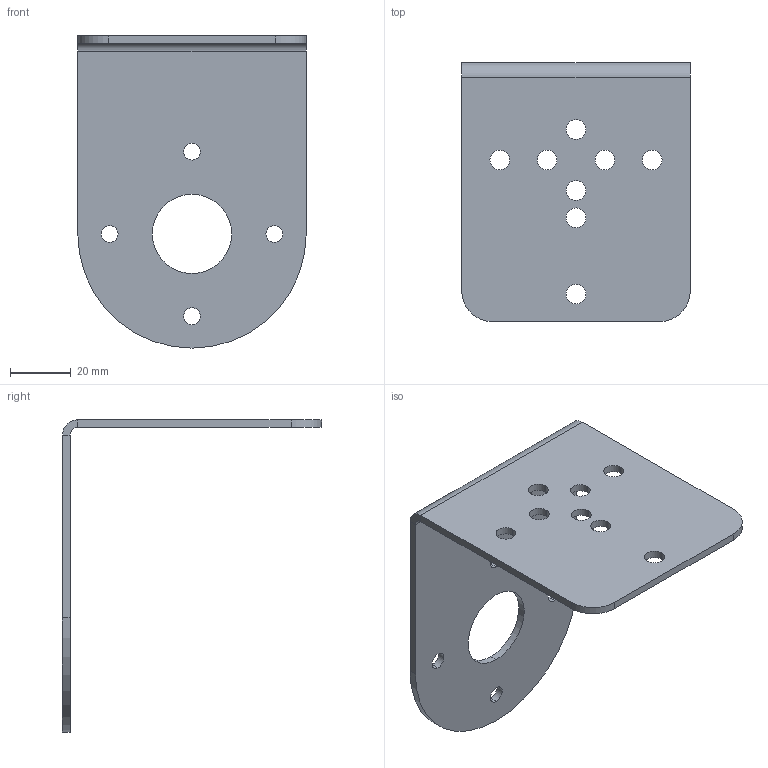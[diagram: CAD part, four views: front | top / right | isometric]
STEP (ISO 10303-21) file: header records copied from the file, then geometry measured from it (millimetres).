
FILE_DESCRIPTION (( 'STEP AP214' ), '1' );
FILE_NAME ('20230214_28250190000.STEP', '2023-02-14T08:43:41', ( '' ), ( '' ), 'SwSTEP 2.0', 'SolidWorks 2021', '' );
FILE_SCHEMA (( 'AUTOMOTIVE_DESIGN' ));
Length unit declared in the file: millimetre
Products named in the file (1): 20230214_28250190000
Bounding box: 75 x 85 x 102.5 mm (x, y, z)
Volume: 30540.9 mm3; surface area: 26408.2 mm2
Topology: 1 solids, 1 shells, 43 faces, 115 edges, 74 vertices
Faces by surface type: cylinder 32, plane 11
Entity records: 1455 total; most frequent: DIRECTION 267, CARTESIAN_POINT 233, ORIENTED_EDGE 230, EDGE_CURVE 115, AXIS2_PLACEMENT_3D 108, VERTEX_POINT 74, EDGE_LOOP 69, CIRCLE 64
